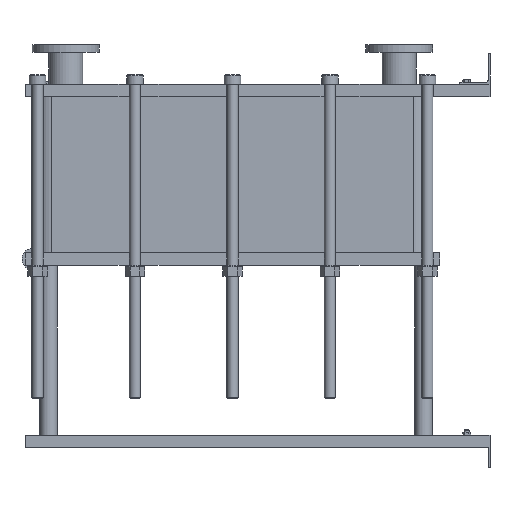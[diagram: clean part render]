
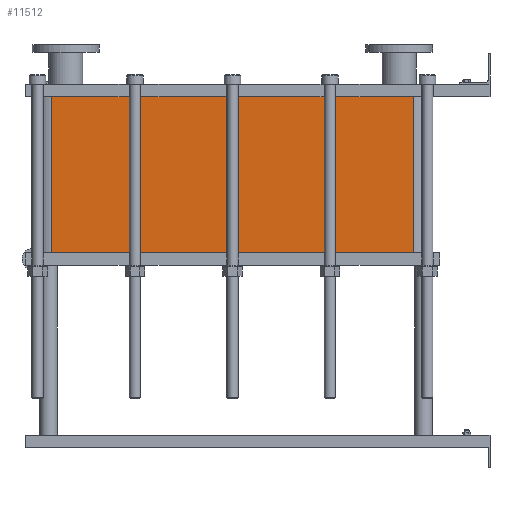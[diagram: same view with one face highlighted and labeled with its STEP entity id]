
A CAD part, left-side view. The second image highlights one B-rep face of the part: STEP entity #11512.
In plain terms, the highlighted planar face has unit normal (-1, 0, 0).
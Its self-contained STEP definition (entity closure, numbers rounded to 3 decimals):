
#1129=LINE('',#23232,#2102);
#1130=LINE('',#23236,#2103);
#1131=LINE('',#23238,#2104);
#1132=LINE('',#23239,#2105);
#2102=VECTOR('',#15887,10.);
#2103=VECTOR('',#15892,10.);
#2104=VECTOR('',#15893,10.);
#2105=VECTOR('',#15894,10.);
#3267=FACE_OUTER_BOUND('',#4093,.T.);
#4093=EDGE_LOOP('',(#10103,#10104,#10105,#10106));
#5642=VERTEX_POINT('',#23229);
#5643=VERTEX_POINT('',#23231);
#5644=VERTEX_POINT('',#23235);
#5645=VERTEX_POINT('',#23237);
#7159=EDGE_CURVE('',#5643,#5642,#1129,.T.);
#7161=EDGE_CURVE('',#5642,#5644,#1130,.T.);
#7162=EDGE_CURVE('',#5645,#5644,#1131,.T.);
#7163=EDGE_CURVE('',#5645,#5643,#1132,.T.);
#10103=ORIENTED_EDGE('',*,*,#7161,.T.);
#10104=ORIENTED_EDGE('',*,*,#7162,.F.);
#10105=ORIENTED_EDGE('',*,*,#7163,.T.);
#10106=ORIENTED_EDGE('',*,*,#7159,.T.);
#10857=PLANE('',#12751);
#11512=ADVANCED_FACE('',(#3267),#10857,.T.);
#12751=AXIS2_PLACEMENT_3D('',#23234,#15890,#15891);
#15887=DIRECTION('',(0.,0.,-1.));
#15890=DIRECTION('center_axis',(-1.,0.,0.));
#15891=DIRECTION('ref_axis',(0.,1.,0.));
#15892=DIRECTION('',(0.,-1.,0.));
#15893=DIRECTION('',(0.,0.,-1.));
#15894=DIRECTION('',(0.,1.,0.));
#23229=CARTESIAN_POINT('',(-200.,1414.,-503.7));
#23231=CARTESIAN_POINT('',(-200.,1414.,0.));
#23232=CARTESIAN_POINT('',(-200.,1414.,0.));
#23234=CARTESIAN_POINT('Origin',(-200.,248.,0.));
#23235=CARTESIAN_POINT('',(-200.,248.,-503.7));
#23236=CARTESIAN_POINT('',(-200.,539.5,-503.7));
#23237=CARTESIAN_POINT('',(-200.,248.,0.));
#23238=CARTESIAN_POINT('',(-200.,248.,0.));
#23239=CARTESIAN_POINT('',(-200.,248.,0.));
